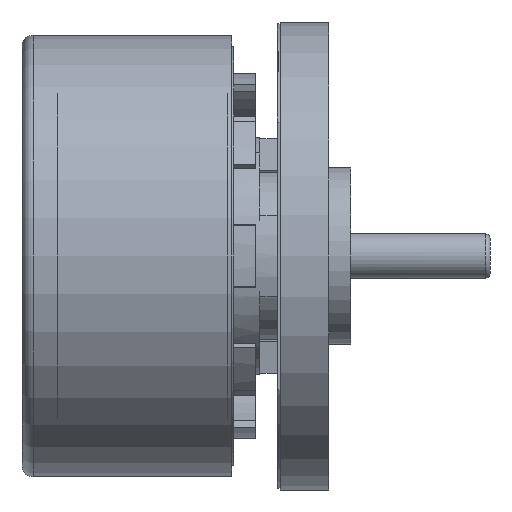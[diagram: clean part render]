
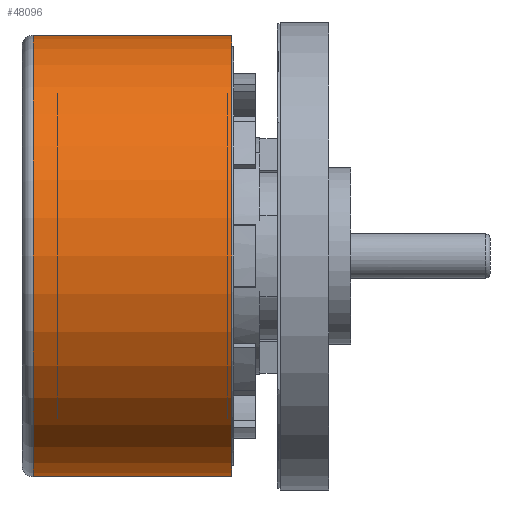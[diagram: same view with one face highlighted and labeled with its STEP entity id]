
A CAD part, front view. The second image highlights one B-rep face of the part: STEP entity #48096.
In plain terms, the highlighted cylindrical face has radius 10 mm (diameter 20 mm), a partial arc.
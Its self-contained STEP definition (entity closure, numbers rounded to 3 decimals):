
#47772=DIRECTION('',(1.,0.,0.));
#47773=VECTOR('',#47772,9.);
#47774=CARTESIAN_POINT('',(0.5,0.,-10.));
#47775=LINE('',#47774,#47773);
#47776=CARTESIAN_POINT('',(0.5,0.,0.));
#47777=DIRECTION('',(-1.,0.,0.));
#47778=DIRECTION('',(0.,0.,-1.));
#47779=AXIS2_PLACEMENT_3D('',#47776,#47777,#47778);
#47781=DIRECTION('',(1.,0.,0.));
#47782=VECTOR('',#47781,9.);
#47783=CARTESIAN_POINT('',(0.5,0.,10.));
#47784=LINE('',#47783,#47782);
#47790=CARTESIAN_POINT('',(9.5,0.,0.));
#47791=DIRECTION('',(1.,0.,0.));
#47792=DIRECTION('',(0.,0.,1.));
#47793=AXIS2_PLACEMENT_3D('',#47790,#47791,#47792);
#47963=CARTESIAN_POINT('',(9.5,0.,-10.));
#47964=CARTESIAN_POINT('',(9.5,0.,10.));
#47965=VERTEX_POINT('',#47963);
#47966=VERTEX_POINT('',#47964);
#47979=CARTESIAN_POINT('',(0.5,0.,-10.));
#47980=CARTESIAN_POINT('',(0.5,0.,10.));
#47981=VERTEX_POINT('',#47979);
#47982=VERTEX_POINT('',#47980);
#48084=CARTESIAN_POINT('',(0.,0.,0.));
#48085=DIRECTION('',(1.,0.,0.));
#48086=DIRECTION('',(0.,0.,-1.));
#48087=AXIS2_PLACEMENT_3D('',#48084,#48085,#48086);
#48088=CYLINDRICAL_SURFACE('',#48087,10.);
#48089=ORIENTED_EDGE('',*,*,#48049,.T.);
#48090=ORIENTED_EDGE('',*,*,#48079,.T.);
#48092=ORIENTED_EDGE('',*,*,#48091,.T.);
#48093=ORIENTED_EDGE('',*,*,#48075,.F.);
#48094=EDGE_LOOP('',(#48089,#48090,#48092,#48093));
#48095=FACE_OUTER_BOUND('',#48094,.F.);
#48096=ADVANCED_FACE('',(#48095),#48088,.T.);
#47780=CIRCLE('',#47779,10.);
#47794=CIRCLE('',#47793,10.);
#48049=EDGE_CURVE('',#47981,#47982,#47780,.T.);
#48075=EDGE_CURVE('',#47981,#47965,#47775,.T.);
#48079=EDGE_CURVE('',#47982,#47966,#47784,.T.);
#48091=EDGE_CURVE('',#47966,#47965,#47794,.T.);
